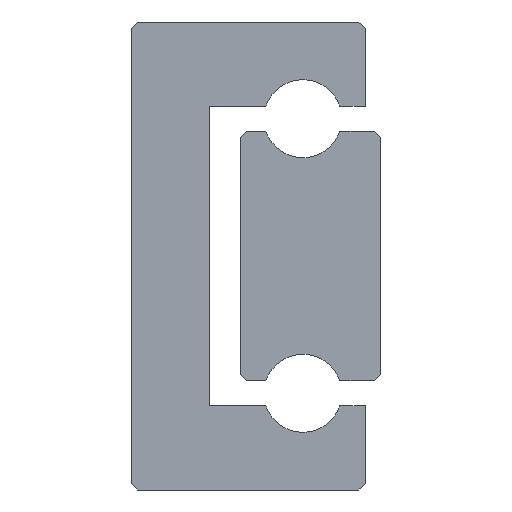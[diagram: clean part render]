
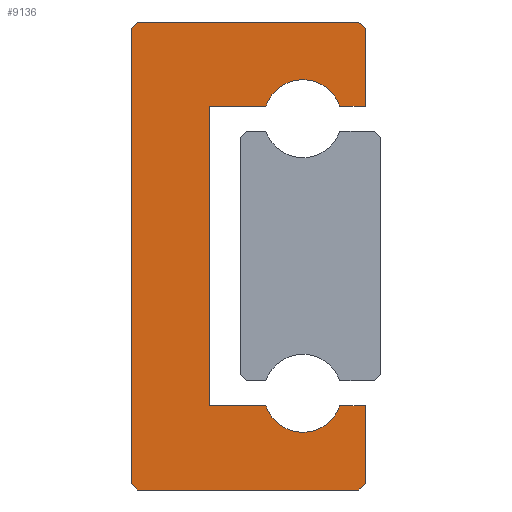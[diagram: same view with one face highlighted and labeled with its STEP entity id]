
A CAD part, left-side view. The second image highlights one B-rep face of the part: STEP entity #9136.
In plain terms, the highlighted planar face has unit normal (-1, 0, 0).
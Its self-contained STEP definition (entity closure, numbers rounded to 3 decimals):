
#65=PLANE('',#9946);
#271=LINE('',#13918,#1077);
#409=LINE('',#14691,#1215);
#412=LINE('',#14697,#1218);
#415=LINE('',#14703,#1221);
#419=LINE('',#14715,#1225);
#422=LINE('',#14729,#1228);
#425=LINE('',#14735,#1231);
#429=LINE('',#14747,#1235);
#432=LINE('',#14753,#1238);
#435=LINE('',#14759,#1241);
#438=LINE('',#14765,#1244);
#441=LINE('',#14771,#1247);
#444=LINE('',#14785,#1250);
#447=LINE('',#14791,#1253);
#1077=VECTOR('',#10863,1000.);
#1215=VECTOR('',#11499,1000.);
#1218=VECTOR('',#11504,1000.);
#1221=VECTOR('',#11509,1000.);
#1225=VECTOR('',#11521,1000.);
#1228=VECTOR('',#11534,1000.);
#1231=VECTOR('',#11539,1000.);
#1235=VECTOR('',#11551,1000.);
#1238=VECTOR('',#11556,1000.);
#1241=VECTOR('',#11561,1000.);
#1244=VECTOR('',#11566,1000.);
#1247=VECTOR('',#11571,1000.);
#1250=VECTOR('',#11584,1000.);
#1253=VECTOR('',#11589,1000.);
#2409=ORIENTED_EDGE('',*,*,#4731,.F.);
#2410=ORIENTED_EDGE('',*,*,#5167,.F.);
#2411=ORIENTED_EDGE('',*,*,#5164,.F.);
#2412=ORIENTED_EDGE('',*,*,#5157,.F.);
#2413=ORIENTED_EDGE('',*,*,#5154,.F.);
#2414=ORIENTED_EDGE('',*,*,#5151,.F.);
#2415=ORIENTED_EDGE('',*,*,#5148,.F.);
#2416=ORIENTED_EDGE('',*,*,#5145,.F.);
#2417=ORIENTED_EDGE('',*,*,#5142,.T.);
#2418=ORIENTED_EDGE('',*,*,#5139,.F.);
#2419=ORIENTED_EDGE('',*,*,#5136,.F.);
#2420=ORIENTED_EDGE('',*,*,#5129,.F.);
#2421=ORIENTED_EDGE('',*,*,#5126,.T.);
#2422=ORIENTED_EDGE('',*,*,#5123,.F.);
#2423=ORIENTED_EDGE('',*,*,#5120,.F.);
#2424=ORIENTED_EDGE('',*,*,#5117,.F.);
#4731=EDGE_CURVE('',#6137,#6138,#271,.T.);
#5117=EDGE_CURVE('',#6138,#6523,#409,.T.);
#5120=EDGE_CURVE('',#6523,#6525,#412,.T.);
#5123=EDGE_CURVE('',#6525,#6527,#415,.T.);
#5126=EDGE_CURVE('',#6529,#6527,#7317,.T.);
#5129=EDGE_CURVE('',#6529,#6531,#419,.T.);
#5136=EDGE_CURVE('',#6531,#6537,#422,.T.);
#5139=EDGE_CURVE('',#6537,#6539,#425,.T.);
#5142=EDGE_CURVE('',#6541,#6539,#7323,.T.);
#5145=EDGE_CURVE('',#6541,#6543,#429,.T.);
#5148=EDGE_CURVE('',#6543,#6545,#432,.T.);
#5151=EDGE_CURVE('',#6545,#6547,#435,.T.);
#5154=EDGE_CURVE('',#6547,#6549,#438,.T.);
#5157=EDGE_CURVE('',#6549,#6551,#441,.T.);
#5164=EDGE_CURVE('',#6551,#6557,#444,.T.);
#5167=EDGE_CURVE('',#6557,#6137,#447,.T.);
#6137=VERTEX_POINT('',#13919);
#6138=VERTEX_POINT('',#13920);
#6523=VERTEX_POINT('',#14692);
#6525=VERTEX_POINT('',#14698);
#6527=VERTEX_POINT('',#14704);
#6529=VERTEX_POINT('',#14710);
#6531=VERTEX_POINT('',#14716);
#6537=VERTEX_POINT('',#14730);
#6539=VERTEX_POINT('',#14736);
#6541=VERTEX_POINT('',#14742);
#6543=VERTEX_POINT('',#14748);
#6545=VERTEX_POINT('',#14754);
#6547=VERTEX_POINT('',#14760);
#6549=VERTEX_POINT('',#14766);
#6551=VERTEX_POINT('',#14772);
#6557=VERTEX_POINT('',#14786);
#7317=CIRCLE('',#9922,1.25);
#7323=CIRCLE('',#9932,1.25);
#7745=EDGE_LOOP('',(#2409,#2410,#2411,#2412,#2413,#2414,#2415,#2416,#2417,
#2418,#2419,#2420,#2421,#2422,#2423,#2424));
#8309=FACE_BOUND('',#7745,.T.);
#9136=ADVANCED_FACE('',(#8309),#65,.F.);
#9922=AXIS2_PLACEMENT_3D('',#14709,#11514,#11515);
#9932=AXIS2_PLACEMENT_3D('',#14741,#11544,#11545);
#9946=AXIS2_PLACEMENT_3D('',#14794,#11593,#11594);
#10863=DIRECTION('',(0.,-1.,0.));
#11499=DIRECTION('',(0.,-0.707,-0.707));
#11504=DIRECTION('',(0.,0.,-1.));
#11509=DIRECTION('',(0.,1.,0.));
#11514=DIRECTION('',(1.,0.,0.));
#11515=DIRECTION('',(0.,0.,-1.));
#11521=DIRECTION('',(0.,1.,0.));
#11534=DIRECTION('',(0.,0.,-1.));
#11539=DIRECTION('',(0.,-1.,0.));
#11544=DIRECTION('',(1.,0.,0.));
#11545=DIRECTION('',(0.,0.,-1.));
#11551=DIRECTION('',(0.,-1.,0.));
#11556=DIRECTION('',(0.,0.,-1.));
#11561=DIRECTION('',(0.,0.707,-0.707));
#11566=DIRECTION('',(0.,1.,0.));
#11571=DIRECTION('',(0.,0.707,0.707));
#11584=DIRECTION('',(0.,0.,1.));
#11589=DIRECTION('',(0.,-0.707,0.707));
#11593=DIRECTION('',(1.,0.,0.));
#11594=DIRECTION('',(0.,0.,-1.));
#13918=CARTESIAN_POINT('',(-20.,7.3,7.5));
#13919=CARTESIAN_POINT('',(-20.,7.3,7.5));
#13920=CARTESIAN_POINT('',(-20.,0.2,7.5));
#14691=CARTESIAN_POINT('',(-20.,0.2,7.5));
#14692=CARTESIAN_POINT('',(-20.,0.,7.3));
#14697=CARTESIAN_POINT('',(-20.,0.,7.3));
#14698=CARTESIAN_POINT('',(-20.,0.,4.8));
#14703=CARTESIAN_POINT('',(-20.,0.,4.8));
#14704=CARTESIAN_POINT('',(-20.,0.816,4.8));
#14709=CARTESIAN_POINT('',(-20.,2.,4.4));
#14710=CARTESIAN_POINT('',(-20.,3.184,4.8));
#14715=CARTESIAN_POINT('',(-20.,3.184,4.8));
#14716=CARTESIAN_POINT('',(-20.,5.,4.8));
#14729=CARTESIAN_POINT('',(-20.,5.,4.8));
#14730=CARTESIAN_POINT('',(-20.,5.,-4.8));
#14735=CARTESIAN_POINT('',(-20.,5.,-4.8));
#14736=CARTESIAN_POINT('',(-20.,3.184,-4.8));
#14741=CARTESIAN_POINT('',(-20.,2.,-4.4));
#14742=CARTESIAN_POINT('',(-20.,0.816,-4.8));
#14747=CARTESIAN_POINT('',(-20.,0.816,-4.8));
#14748=CARTESIAN_POINT('',(-20.,0.,-4.8));
#14753=CARTESIAN_POINT('',(-20.,0.,-4.8));
#14754=CARTESIAN_POINT('',(-20.,0.,-7.3));
#14759=CARTESIAN_POINT('',(-20.,0.,-7.3));
#14760=CARTESIAN_POINT('',(-20.,0.2,-7.5));
#14765=CARTESIAN_POINT('',(-20.,0.2,-7.5));
#14766=CARTESIAN_POINT('',(-20.,7.3,-7.5));
#14771=CARTESIAN_POINT('',(-20.,7.3,-7.5));
#14772=CARTESIAN_POINT('',(-20.,7.5,-7.3));
#14785=CARTESIAN_POINT('',(-20.,7.5,-7.3));
#14786=CARTESIAN_POINT('',(-20.,7.5,7.3));
#14791=CARTESIAN_POINT('',(-20.,7.5,7.3));
#14794=CARTESIAN_POINT('',(-20.,2.,4.4));
